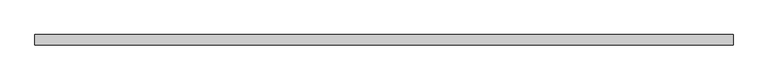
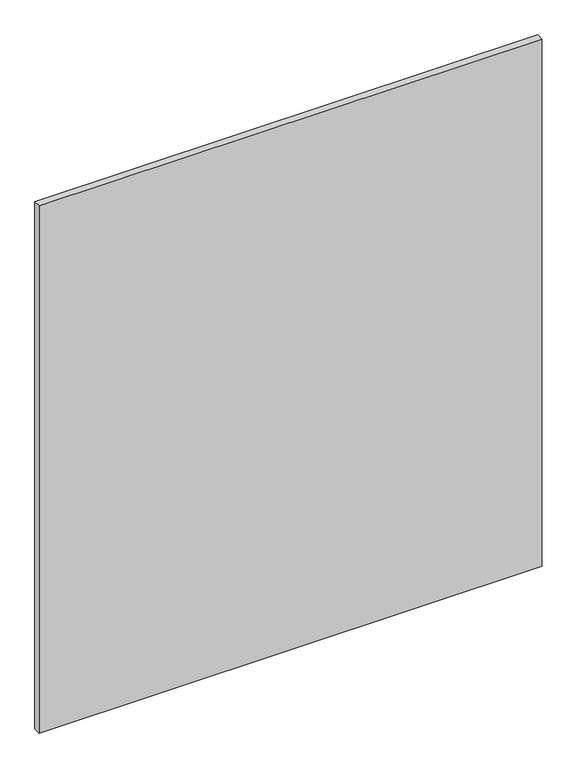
"""IFC4 building model written with IfcOpenShell, lengths in millimetres: plate geometry, Vitré."""

import ifcopenshell
import ifcopenshell.guid

model = None  # the IFC model being written
_history = None  # IfcOwnerHistory: only IFC2X3 demands one
_inside = {}  # id of a spatial element -> (the spatial element, [elements in it])
_under = {}  # id of a project, library or spatial element -> (it, [spatial elements below it])
_declared = {}  # id of a project -> (the project, [libraries it declares])
_typed = {}  # id of a type object -> (the type object, [elements of that type])
_made_of = {}  # id of a material, layer set ... -> (it, [elements and type objects made of it])


def new_model(schema):
    """Start an empty IFC model of exactly this schema.

    Asked for "IFC4X3", IfcOpenShell would pick the latest addendum, in which some entities
    have other attributes; the version numbers below select the first issue.
    IFC2X3 requires an IfcOwnerHistory on every rooted entity: one is made here for all.
    """
    global model, _history
    if schema == "IFC4X3":
        model = ifcopenshell.file(schema_version=(4, 3, 0, 0))
    else:
        model = ifcopenshell.file(schema=schema)
    _inside.clear()
    _under.clear()
    _declared.clear()
    _typed.clear()
    _made_of.clear()
    _history = None
    if model.schema == "IFC2X3":
        org = make("IfcOrganization", Name="unknown")
        user = make(
            "IfcPersonAndOrganization",
            ThePerson=make("IfcPerson", FamilyName="unknown"),
            TheOrganization=org,
        )
        app = make(
            "IfcApplication",
            ApplicationDeveloper=org,
            Version="unknown",
            ApplicationFullName="unknown",
            ApplicationIdentifier="unknown",
        )
        _history = make(
            "IfcOwnerHistory",
            OwningUser=user,
            OwningApplication=app,
            ChangeAction="ADDED",
            CreationDate=0,
        )
    return model


def make(cls, **values):
    """One entity of the class cls with the attributes given. An attribute that is None is left unset."""
    return model.create_entity(
        cls, **{name: value for name, value in values.items() if value is not None}
    )


def rooted(cls, **values):
    """An entity with a GlobalId (a new one), such as an element, a storey or a relation."""
    return make(cls, GlobalId=ifcopenshell.guid.new(), OwnerHistory=_history, **values)


def si_unit(unit_type, name, prefix=None):
    """IfcSIUnit, for example si_unit("LENGTHUNIT", "METRE", prefix="MILLI")."""
    return make("IfcSIUnit", UnitType=unit_type, Prefix=prefix, Name=name)


def assignment(units):
    """IfcUnitAssignment: the units of a project."""
    return None if units is None else make("IfcUnitAssignment", Units=units)


def point(xyz):
    """IfcCartesianPoint."""
    return None if xyz is None else make("IfcCartesianPoint", Coordinates=xyz)


def direction(xyz):
    """IfcDirection."""
    return None if xyz is None else make("IfcDirection", DirectionRatios=xyz)


def frame(location, z_axis=None, x_axis=None):
    """IfcAxis2Placement3D, a coordinate frame: its origin and axes. An axis left out is left unset."""
    return make(
        "IfcAxis2Placement3D",
        Location=point(location),
        Axis=direction(z_axis),
        RefDirection=direction(x_axis),
    )


def origin():
    """The frame at (0, 0, 0) with its axes left unset."""
    return frame((0.0, 0.0, 0.0))


def origin_with_axes():
    """The frame at (0, 0, 0) with the z axis (0, 0, 1) and the x axis (1, 0, 0) written out."""
    return frame((0.0, 0.0, 0.0), z_axis=(0.0, 0.0, 1.0), x_axis=(1.0, 0.0, 0.0))


def place(relative_to, where):
    """IfcLocalPlacement: puts the frame where relative to a parent placement (None: the world)."""
    return make(
        "IfcLocalPlacement", PlacementRelTo=relative_to, RelativePlacement=where
    )


def context(
    kind, dimensions, precision=None, world=None, true_north=None, identifier=None
):
    """IfcGeometricRepresentationContext, for example the 3D "Model" context."""
    return make(
        "IfcGeometricRepresentationContext",
        ContextIdentifier=identifier,
        ContextType=kind,
        CoordinateSpaceDimension=dimensions,
        Precision=precision,
        WorldCoordinateSystem=world,
        TrueNorth=true_north,
    )


def project(units=None, contexts=None):
    """IfcProject with its units and contexts."""
    return rooted(
        "IfcProject",
        Name="project",
        RepresentationContexts=contexts,
        UnitsInContext=assignment(units),
    )


def spatial(cls, under=None, at=None, **own):
    """A site, building, storey or space (cls), placed at a placement, below another one or the project."""
    s = rooted(cls, ObjectPlacement=at, **own)
    if under is not None:
        _under.setdefault(under.id(), (under, []))[1].append(s)
    return s


def polyline(points):
    """IfcPolyline through the points."""
    return make("IfcPolyline", Points=[point(p) for p in points])


def outline(outer, holes=None, kind="AREA"):
    """IfcArbitraryClosedProfileDef: a profile drawn as a closed curve; with holes, ...WithVoids."""
    if holes is None:
        return make("IfcArbitraryClosedProfileDef", ProfileType=kind, OuterCurve=outer)
    return make(
        "IfcArbitraryProfileDefWithVoids",
        ProfileType=kind,
        OuterCurve=outer,
        InnerCurves=holes,
    )


def extrude(swept, where, along, depth):
    """IfcExtrudedAreaSolid: the profile swept, set in the frame where, extruded along a direction by depth."""
    return make(
        "IfcExtrudedAreaSolid",
        SweptArea=swept,
        Position=where,
        ExtrudedDirection=direction(along),
        Depth=depth,
    )


def shape(context_of_items, identifier, shape_type, items):
    """IfcShapeRepresentation: the items that make up one representation, for example the "Body"."""
    return make(
        "IfcShapeRepresentation",
        ContextOfItems=context_of_items,
        RepresentationIdentifier=identifier,
        RepresentationType=shape_type,
        Items=items,
    )


def source(mapping_origin, context_of_items, identifier, shape_type, items):
    """IfcRepresentationMap: a shape defined once, which mapped items show again and again."""
    return make(
        "IfcRepresentationMap",
        MappingOrigin=mapping_origin,
        MappedRepresentation=shape(context_of_items, identifier, shape_type, items),
    )


def transform(
    local_origin,
    x_axis=None,
    y_axis=None,
    z_axis=None,
    scale=None,
    scale2=None,
    scale3=None,
    uniform=True,
):
    """IfcCartesianTransformationOperator3D, or its non-uniform kind. x_axis, y_axis, z_axis: its Axis1, 2, 3."""
    if uniform:
        return make(
            "IfcCartesianTransformationOperator3D",
            Axis1=direction(x_axis),
            Axis2=direction(y_axis),
            LocalOrigin=point(local_origin),
            Scale=scale,
            Axis3=direction(z_axis),
        )
    return make(
        "IfcCartesianTransformationOperator3DnonUniform",
        Axis1=direction(x_axis),
        Axis2=direction(y_axis),
        LocalOrigin=point(local_origin),
        Scale=scale,
        Axis3=direction(z_axis),
        Scale2=scale2,
        Scale3=scale3,
    )


def mapped(mapping_source, mapping_target):
    """IfcMappedItem: shows the shape of a source again, moved by a transform."""
    return make(
        "IfcMappedItem", MappingSource=mapping_source, MappingTarget=mapping_target
    )


def made_of(thing, what):
    """Note that an element or type object is made of a material, layer set ...; save() writes the relation."""
    if what is not None:
        _made_of.setdefault(what.id(), (what, []))[1].append(thing)
    return thing


def element(
    cls,
    number,
    at=None,
    inside=None,
    cuts=None,
    type_object=None,
    material=None,
    context=None,
    identifier="Body",
    shape_type=None,
    held_by="IfcProductDefinitionShape",
    body=None,
    shapes=None,
    **own,
):
    """One element of the class cls, such as IfcWall. Its Tag is "e" and its number.

    at: its placement. inside: the storey or other place that contains it. cuts: it is an
    opening in that element (IfcRelVoidsElement). A single representation is given by context,
    identifier, shape_type and body (its items); several are given by shapes. held_by: the class
    of the entity that holds the representations. save() writes the other relations.
    """
    e = rooted(cls, Tag="e%d" % number, ObjectPlacement=at, **own)
    if body is not None:
        shapes = [shape(context, identifier, shape_type, body)]
    if shapes is not None:
        e.Representation = make(held_by, Representations=shapes)
    if inside is not None:
        _inside.setdefault(inside.id(), (inside, []))[1].append(e)
    if cuts is not None:
        rooted(
            "IfcRelVoidsElement", RelatingBuildingElement=cuts, RelatedOpeningElement=e
        )
    if type_object is not None:
        _typed.setdefault(type_object.id(), (type_object, []))[1].append(e)
    return made_of(e, material)


def aggregate(whole, parts):
    """IfcRelAggregates: a whole, such as a stair, and the parts it consists of."""
    return rooted("IfcRelAggregates", RelatingObject=whole, RelatedObjects=parts)


def save(model, path):
    """Write the relations noted so far, then the file.

    IfcRelAggregates (storeys below a building ...), IfcRelContainedInSpatialStructure (elements
    in a storey), IfcRelDefinesByType, IfcRelAssociatesMaterial and IfcRelDeclares: one each for
    every whole, place, type object, material and project.
    """
    for whole, parts in _under.values():
        aggregate(whole, parts)
    for where, things in _inside.values():
        rooted(
            "IfcRelContainedInSpatialStructure",
            RelatedElements=things,
            RelatingStructure=where,
        )
    for kind, things in _typed.values():
        rooted("IfcRelDefinesByType", RelatedObjects=things, RelatingType=kind)
    for what, things in _made_of.values():
        rooted("IfcRelAssociatesMaterial", RelatedObjects=things, RelatingMaterial=what)
    for by, libraries in _declared.values():
        rooted("IfcRelDeclares", RelatingContext=by, RelatedDefinitions=libraries)
    model.write(path)


def plate_86112573(model_context):
    return source(origin(), model_context, "Body", "SweptSolid", [
        extrude(outline(polyline([(-1375.0625002, -20.0), (-1375.0625002, 20.0), (1375.0625002, 20.0), (1375.0625002, -20.0), (-1375.0625002, -20.0)])), origin_with_axes(), (0.0, 0.0, 1.0), 3047.625),
    ])


if __name__ == "__main__":
    model = new_model("IFC4")
    model_context = context("Model", 3, world=origin())
    ifc_project = project(units=[si_unit("LENGTHUNIT", "METRE", prefix="MILLI")], contexts=[model_context])
    site = spatial("IfcSite", under=ifc_project)
    building = spatial("IfcBuilding", under=site)
    placement = place(None, origin())
    plate_shape = plate_86112573(model_context)
    element("IfcPlate", 1, ObjectType="Vitré", at=placement, inside=building, context=model_context, shape_type="MappedRepresentation", body=[
        mapped(plate_shape, transform((0.0, 0.0, 0.0), x_axis=(1.0, 0.0, 0.0), y_axis=(0.0, 1.0, 0.0), z_axis=(0.0, 0.0, 1.0))),
    ])
    save(model, "model.ifc")
